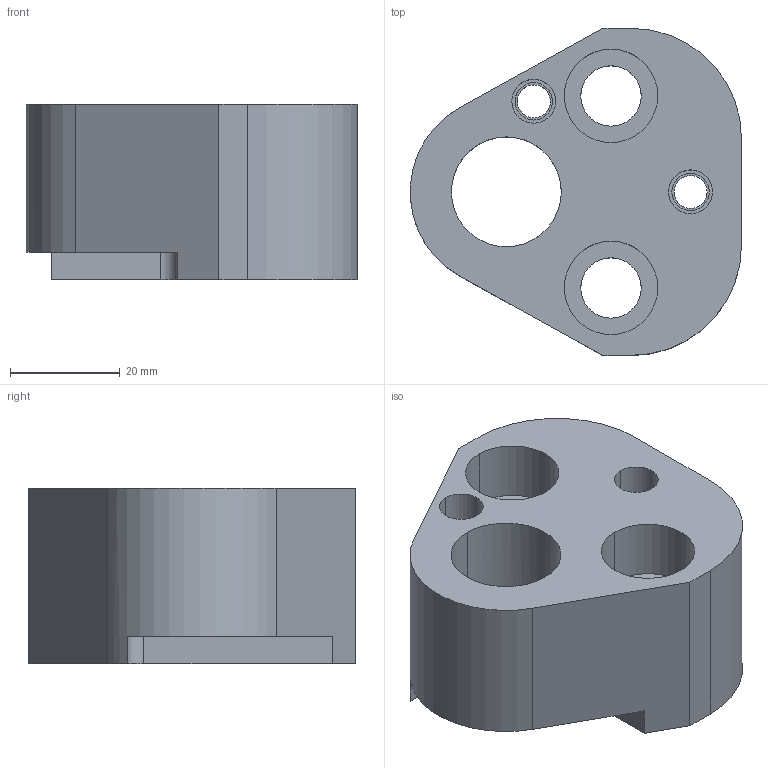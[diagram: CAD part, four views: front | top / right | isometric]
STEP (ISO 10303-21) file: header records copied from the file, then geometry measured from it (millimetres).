
FILE_DESCRIPTION(/* description */ (''),/* implementation_level */ '2;1');
FILE_NAME(/* name */ '3d_crn-f20_03641_r00.stp',/* time_stamp */ '2011-01-10T14:16:22+09:00',/* author */ ('MISUMI'),/* organization */ (''),/* preprocessor_version */ 'ST-DEVELOPER v11',/* originating_system */ 'UGS - NX 5.0',/* authorisation */ '');
FILE_SCHEMA (('CONFIG_CONTROL_DESIGN'));
Length unit declared in the file: millimetre
Products named in the file (1): 3d_crn-f20_03641_r00
Bounding box: 60.24 x 59.5 x 32 mm (x, y, z)
Volume: 62427.5 mm3; surface area: 16113.5 mm2
Topology: 1 solids, 1 shells, 44 faces, 110 edges, 73 vertices
Faces by surface type: cylinder 26, plane 16, cone 2
Entity records: 1449 total; most frequent: DIRECTION 255, CARTESIAN_POINT 231, ORIENTED_EDGE 220, EDGE_CURVE 110, AXIS2_PLACEMENT_3D 101, VERTEX_POINT 73, EDGE_LOOP 59, CIRCLE 56
